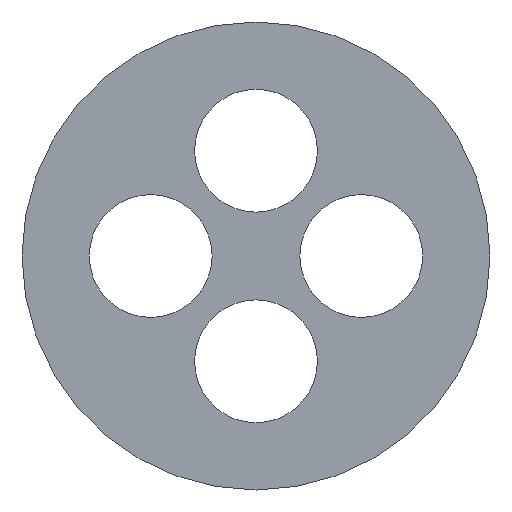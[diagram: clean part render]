
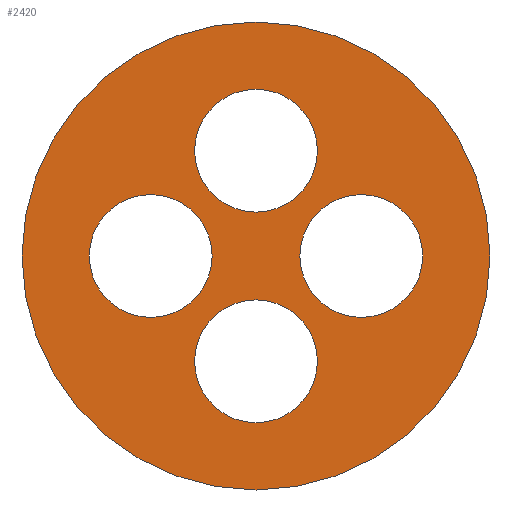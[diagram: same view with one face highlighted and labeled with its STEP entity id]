
A CAD part, left-side view. The second image highlights one B-rep face of the part: STEP entity #2420.
In plain terms, the highlighted planar face has unit normal (-1, 0, 0).
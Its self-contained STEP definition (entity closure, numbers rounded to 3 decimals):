
#1490=CARTESIAN_POINT('',(80.523,99.232,
0.));
#1500=VERTEX_POINT('',#1490);
#1580=CARTESIAN_POINT('',(80.523,115.232,0.));
#1590=VERTEX_POINT('',#1580);
#1620=CARTESIAN_POINT('',(80.523,107.232,0.));
#1630=DIRECTION('',(1.,0.,0.));
#1640=DIRECTION('',(0.,1.,0.));
#1650=AXIS2_PLACEMENT_3D('',#1620,#1630,#1640);
#1660=CIRCLE('',#1650,8.);
#1670=EDGE_CURVE('',#1500,#1590,#1660,.T.);
#1720=CARTESIAN_POINT('',(80.523,111.232,0.));
#1730=DIRECTION('',(-1.,0.,0.));
#1740=DIRECTION('',(0.,1.,0.));
#1750=AXIS2_PLACEMENT_3D('',#1720,#1730,#1740);
#1760=PLANE('',#1750);
#1770=EDGE_CURVE('',#1590,#1500,#1660,.T.);
#1780=ORIENTED_EDGE('',*,*,#1770,.F.);
#1790=ORIENTED_EDGE('',*,*,#1670,.F.);
#1800=EDGE_LOOP('',(#1790,#1780));
#1810=FACE_OUTER_BOUND('',#1800,.T.);
#1820=CARTESIAN_POINT('',(80.523,107.232,
-3.6));
#1830=DIRECTION('',(1.,0.,0.));
#1840=DIRECTION('',(0.,1.,0.));
#1850=AXIS2_PLACEMENT_3D('',#1820,#1830,#1840);
#1860=CIRCLE('',#1850,2.1);
#1870=CARTESIAN_POINT('',(80.523,109.332,
-3.6));
#1880=VERTEX_POINT('',#1870);
#1890=CARTESIAN_POINT('',(80.523,105.132,
-3.6));
#1900=VERTEX_POINT('',#1890);
#1910=EDGE_CURVE('',#1880,#1900,#1860,.T.);
#1920=ORIENTED_EDGE('',*,*,#1910,.T.);
#1930=EDGE_CURVE('',#1900,#1880,#1860,.T.);
#1940=ORIENTED_EDGE('',*,*,#1930,.T.);
#1950=EDGE_LOOP('',(#1940,#1920));
#1960=FACE_BOUND('',#1950,.T.);
#1970=CARTESIAN_POINT('',(80.523,103.632,0.));
#1980=DIRECTION('',(1.,0.,0.));
#1990=DIRECTION('',(0.,1.,0.));
#2000=AXIS2_PLACEMENT_3D('',#1970,#1980,#1990);
#2010=CIRCLE('',#2000,2.1);
#2020=CARTESIAN_POINT('',(80.523,105.732,0.));
#2030=VERTEX_POINT('',#2020);
#2040=CARTESIAN_POINT('',(80.523,101.532,
0.));
#2050=VERTEX_POINT('',#2040);
#2060=EDGE_CURVE('',#2030,#2050,#2010,.T.);
#2070=ORIENTED_EDGE('',*,*,#2060,.T.);
#2080=EDGE_CURVE('',#2050,#2030,#2010,.T.);
#2090=ORIENTED_EDGE('',*,*,#2080,.T.);
#2100=EDGE_LOOP('',(#2090,#2070));
#2110=FACE_BOUND('',#2100,.T.);
#2120=CARTESIAN_POINT('',(80.523,110.832,0.));
#2130=DIRECTION('',(1.,0.,0.));
#2140=DIRECTION('',(0.,1.,0.));
#2150=AXIS2_PLACEMENT_3D('',#2120,#2130,#2140);
#2160=CIRCLE('',#2150,2.1);
#2170=CARTESIAN_POINT('',(80.523,112.932,0.));
#2180=VERTEX_POINT('',#2170);
#2190=CARTESIAN_POINT('',(80.523,108.732,
0.));
#2200=VERTEX_POINT('',#2190);
#2210=EDGE_CURVE('',#2180,#2200,#2160,.T.);
#2220=ORIENTED_EDGE('',*,*,#2210,.T.);
#2230=EDGE_CURVE('',#2200,#2180,#2160,.T.);
#2240=ORIENTED_EDGE('',*,*,#2230,.T.);
#2250=EDGE_LOOP('',(#2240,#2220));
#2260=FACE_BOUND('',#2250,.T.);
#2270=CARTESIAN_POINT('',(80.523,107.232,
3.6));
#2280=DIRECTION('',(1.,0.,0.));
#2290=DIRECTION('',(0.,1.,0.));
#2300=AXIS2_PLACEMENT_3D('',#2270,#2280,#2290);
#2310=CIRCLE('',#2300,2.1);
#2320=CARTESIAN_POINT('',(80.523,109.332,
3.6));
#2330=VERTEX_POINT('',#2320);
#2340=CARTESIAN_POINT('',(80.523,105.132,
3.6));
#2350=VERTEX_POINT('',#2340);
#2360=EDGE_CURVE('',#2330,#2350,#2310,.T.);
#2370=ORIENTED_EDGE('',*,*,#2360,.T.);
#2380=EDGE_CURVE('',#2350,#2330,#2310,.T.);
#2390=ORIENTED_EDGE('',*,*,#2380,.T.);
#2400=EDGE_LOOP('',(#2390,#2370));
#2410=FACE_BOUND('',#2400,.T.);
#2420=ADVANCED_FACE('',(#1810,#1960,#2110,#2260,#2410),#1760,.T.);
